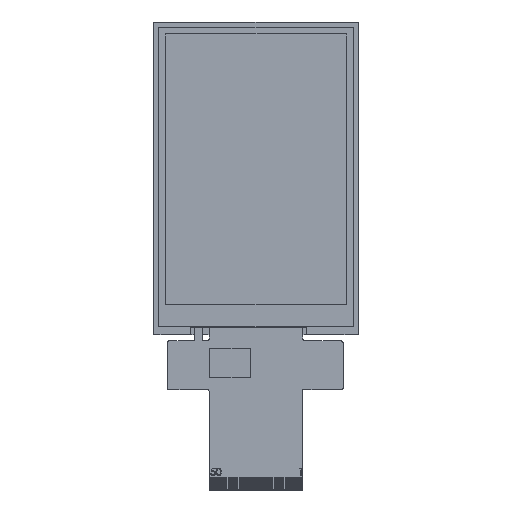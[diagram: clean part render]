
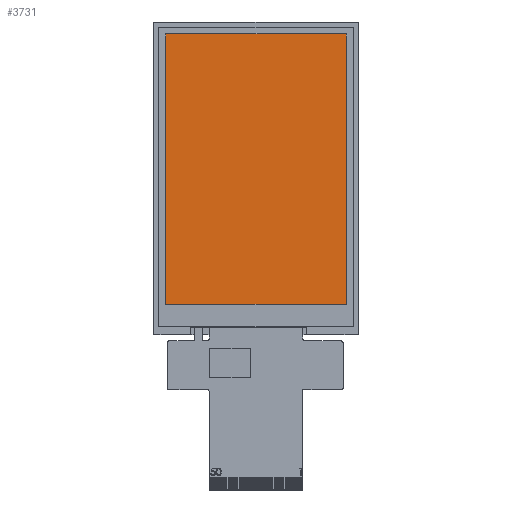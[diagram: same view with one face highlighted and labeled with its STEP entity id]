
A CAD part, top view. The second image highlights one B-rep face of the part: STEP entity #3731.
In plain terms, the highlighted planar face has unit normal (0, 0, 1).
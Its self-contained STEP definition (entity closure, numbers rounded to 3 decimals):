
#96 = CARTESIAN_POINT ( 'NONE',  ( 3.27, -3.26, 2.5 ) ) ;
#1311 = CARTESIAN_POINT ( 'NONE',  ( 0., -76.7, 2.5 ) ) ;
#1606 = DIRECTION ( 'NONE',  ( 0., 1., 0. ) ) ;
#2633 = LINE ( 'NONE', #1311, #7653 ) ;
#3405 = VERTEX_POINT ( 'NONE', #14929 ) ;
#3597 = DIRECTION ( 'NONE',  ( 1., 0., 0. ) ) ;
#3731 = ADVANCED_FACE ( 'NONE', ( #12871 ), #6456, .T. ) ;
#3742 = DIRECTION ( 'NONE',  ( 1., 0., 0. ) ) ;
#4447 = LINE ( 'NONE', #4529, #14839 ) ;
#4529 = CARTESIAN_POINT ( 'NONE',  ( 3.27, 0., 2.5 ) ) ;
#4699 = CARTESIAN_POINT ( 'NONE',  ( 0., 0., 2.5 ) ) ;
#4703 = EDGE_CURVE ( 'NONE', #8918, #3405, #2633, .T. ) ;
#5772 = CARTESIAN_POINT ( 'NONE',  ( 52.23, 0., 2.5 ) ) ;
#5860 = DIRECTION ( 'NONE',  ( 0., -1., 0. ) ) ;
#6456 = PLANE ( 'NONE',  #7709 ) ;
#6807 = VERTEX_POINT ( 'NONE', #96 ) ;
#6917 = ORIENTED_EDGE ( 'NONE', *, *, #12888, .F. ) ;
#7653 = VECTOR ( 'NONE', #16252, 1000. ) ;
#7694 = LINE ( 'NONE', #14508, #8929 ) ;
#7709 = AXIS2_PLACEMENT_3D ( 'NONE', #4699, #12960, #3597 ) ;
#7979 = VECTOR ( 'NONE', #5860, 1000. ) ;
#8237 = EDGE_CURVE ( 'NONE', #3405, #6807, #4447, .T. ) ;
#8642 = EDGE_CURVE ( 'NONE', #6807, #16096, #7694, .T. ) ;
#8918 = VERTEX_POINT ( 'NONE', #17370 ) ;
#8929 = VECTOR ( 'NONE', #3742, 1000. ) ;
#10033 = ORIENTED_EDGE ( 'NONE', *, *, #8642, .F. ) ;
#10403 = ORIENTED_EDGE ( 'NONE', *, *, #4703, .F. ) ;
#12289 = CARTESIAN_POINT ( 'NONE',  ( 52.23, -3.26, 2.5 ) ) ;
#12871 = FACE_OUTER_BOUND ( 'NONE', #16366, .T. ) ;
#12888 = EDGE_CURVE ( 'NONE', #16096, #8918, #16461, .T. ) ;
#12960 = DIRECTION ( 'NONE',  ( 0., 0., 1. ) ) ;
#14508 = CARTESIAN_POINT ( 'NONE',  ( 0., -3.26, 2.5 ) ) ;
#14839 = VECTOR ( 'NONE', #1606, 1000. ) ;
#14929 = CARTESIAN_POINT ( 'NONE',  ( 3.27, -76.7, 2.5 ) ) ;
#15948 = ORIENTED_EDGE ( 'NONE', *, *, #8237, .F. ) ;
#16096 = VERTEX_POINT ( 'NONE', #12289 ) ;
#16252 = DIRECTION ( 'NONE',  ( -1., 0., 0. ) ) ;
#16366 = EDGE_LOOP ( 'NONE', ( #15948, #10403, #6917, #10033 ) ) ;
#16461 = LINE ( 'NONE', #5772, #7979 ) ;
#17370 = CARTESIAN_POINT ( 'NONE',  ( 52.23, -76.7, 2.5 ) ) ;
